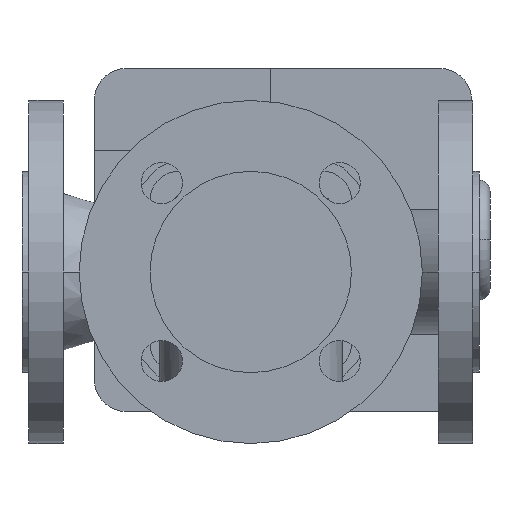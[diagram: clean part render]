
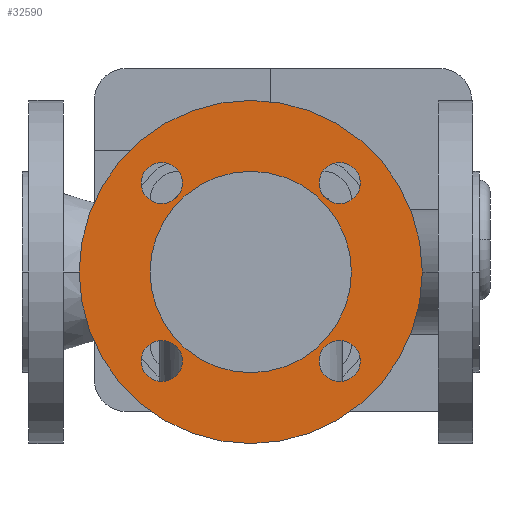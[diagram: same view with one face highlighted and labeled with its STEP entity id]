
A CAD part, front view. The second image highlights one B-rep face of the part: STEP entity #32590.
In plain terms, the highlighted planar face has unit normal (0, -1, 0).
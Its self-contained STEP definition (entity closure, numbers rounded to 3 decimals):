
#6590=CARTESIAN_POINT('',(144.,-87.,0.));
#6600=VERTEX_POINT('',#6590);
#6780=CARTESIAN_POINT('',(56.,-87.,0.));
#6790=VERTEX_POINT('',#6780);
#6820=CARTESIAN_POINT('',(100.,-87.,0.));
#6830=DIRECTION('',(0.,-1.,0.));
#6840=DIRECTION('',(1.,0.,0.));
#6850=AXIS2_PLACEMENT_3D('',#6820,#6830,#6840);
#6860=CIRCLE('',#6850,44.);
#6870=EDGE_CURVE('',#6600,#6790,#6860,.T.);
#7480=CARTESIAN_POINT('',(25.,-87.,0.));
#7490=VERTEX_POINT('',#7480);
#7650=CARTESIAN_POINT('',(175.,-87.,0.));
#7660=VERTEX_POINT('',#7650);
#7690=CARTESIAN_POINT('',(100.,-87.,0.));
#7700=DIRECTION('',(0.,1.,0.));
#7710=DIRECTION('',(1.,0.,0.));
#7720=AXIS2_PLACEMENT_3D('',#7690,#7700,#7710);
#7730=CIRCLE('',#7720,75.);
#7740=EDGE_CURVE('',#7490,#7660,#7730,.T.);
#7900=CARTESIAN_POINT('',(147.891,-87.,-38.891));
#7910=VERTEX_POINT('',#7900);
#8070=CARTESIAN_POINT('',(129.891,-87.,-38.891));
#8080=VERTEX_POINT('',#8070);
#8110=CARTESIAN_POINT('',(138.891,-87.,-38.891));
#8120=DIRECTION('',(0.,1.,0.));
#8130=DIRECTION('',(1.,0.,0.));
#8140=AXIS2_PLACEMENT_3D('',#8110,#8120,#8130);
#8150=CIRCLE('',#8140,9.);
#8160=EDGE_CURVE('',#8080,#7910,#8150,.T.);
#8320=CARTESIAN_POINT('',(129.891,-87.,38.891));
#8330=VERTEX_POINT('',#8320);
#8490=CARTESIAN_POINT('',(147.891,-87.,38.891));
#8500=VERTEX_POINT('',#8490);
#8530=CARTESIAN_POINT('',(138.891,-87.,38.891));
#8540=DIRECTION('',(0.,1.,0.));
#8550=DIRECTION('',(1.,0.,0.));
#8560=AXIS2_PLACEMENT_3D('',#8530,#8540,#8550);
#8570=CIRCLE('',#8560,9.);
#8580=EDGE_CURVE('',#8500,#8330,#8570,.T.);
#8740=CARTESIAN_POINT('',(52.109,-87.,-38.891));
#8750=VERTEX_POINT('',#8740);
#8780=CARTESIAN_POINT('',(61.109,-87.,-38.891));
#8790=DIRECTION('',(0.,1.,0.));
#8800=DIRECTION('',(1.,0.,0.));
#8810=AXIS2_PLACEMENT_3D('',#8780,#8790,#8800);
#8820=CIRCLE('',#8810,9.);
#8830=CARTESIAN_POINT('',(70.109,-87.,-38.891));
#8840=VERTEX_POINT('',#8830);
#8850=EDGE_CURVE('',#8750,#8840,#8820,.T.);
#9160=CARTESIAN_POINT('',(52.109,-87.,38.891));
#9170=VERTEX_POINT('',#9160);
#9330=CARTESIAN_POINT('',(70.109,-87.,38.891));
#9340=VERTEX_POINT('',#9330);
#9370=CARTESIAN_POINT('',(61.109,-87.,38.891));
#9380=DIRECTION('',(0.,1.,0.));
#9390=DIRECTION('',(1.,0.,0.));
#9400=AXIS2_PLACEMENT_3D('',#9370,#9380,#9390);
#9410=CIRCLE('',#9400,9.);
#9420=EDGE_CURVE('',#9340,#9170,#9410,.T.);
#32240=CARTESIAN_POINT('',(100.,-87.,0.));
#32250=DIRECTION('',(0.,1.,0.));
#32260=DIRECTION('',(0.,0.,1.));
#32270=AXIS2_PLACEMENT_3D('',#32240,#32250,#32260);
#32280=PLANE('',#32270);
#32290=EDGE_CURVE('',#9170,#9340,#9410,.T.);
#32300=ORIENTED_EDGE('',*,*,#32290,.T.);
#32310=ORIENTED_EDGE('',*,*,#9420,.T.);
#32320=EDGE_LOOP('',(#32310,#32300));
#32330=FACE_BOUND('',#32320,.T.);
#32340=EDGE_CURVE('',#8840,#8750,#8820,.T.);
#32350=ORIENTED_EDGE('',*,*,#32340,.T.);
#32360=ORIENTED_EDGE('',*,*,#8850,.T.);
#32370=EDGE_LOOP('',(#32360,#32350));
#32380=FACE_BOUND('',#32370,.T.);
#32390=EDGE_CURVE('',#8330,#8500,#8570,.T.);
#32400=ORIENTED_EDGE('',*,*,#32390,.T.);
#32410=ORIENTED_EDGE('',*,*,#8580,.T.);
#32420=EDGE_LOOP('',(#32410,#32400));
#32430=FACE_BOUND('',#32420,.T.);
#32440=EDGE_CURVE('',#7910,#8080,#8150,.T.);
#32450=ORIENTED_EDGE('',*,*,#32440,.T.);
#32460=ORIENTED_EDGE('',*,*,#8160,.T.);
#32470=EDGE_LOOP('',(#32460,#32450));
#32480=FACE_BOUND('',#32470,.T.);
#32490=EDGE_CURVE('',#7660,#7490,#7730,.T.);
#32500=ORIENTED_EDGE('',*,*,#32490,.F.);
#32510=ORIENTED_EDGE('',*,*,#7740,.F.);
#32520=EDGE_LOOP('',(#32510,#32500));
#32530=FACE_OUTER_BOUND('',#32520,.T.);
#32540=EDGE_CURVE('',#6790,#6600,#6860,.T.);
#32550=ORIENTED_EDGE('',*,*,#32540,.F.);
#32560=ORIENTED_EDGE('',*,*,#6870,.F.);
#32570=EDGE_LOOP('',(#32560,#32550));
#32580=FACE_BOUND('',#32570,.T.);
#32590=ADVANCED_FACE('',(#32330,#32380,#32430,#32480,#32530,#32580),
#32280,.F.);
